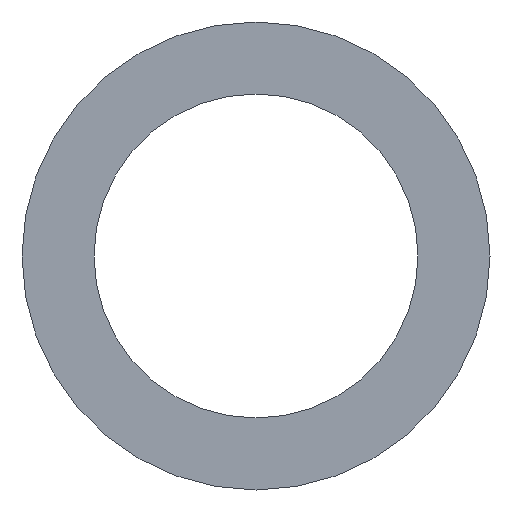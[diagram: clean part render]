
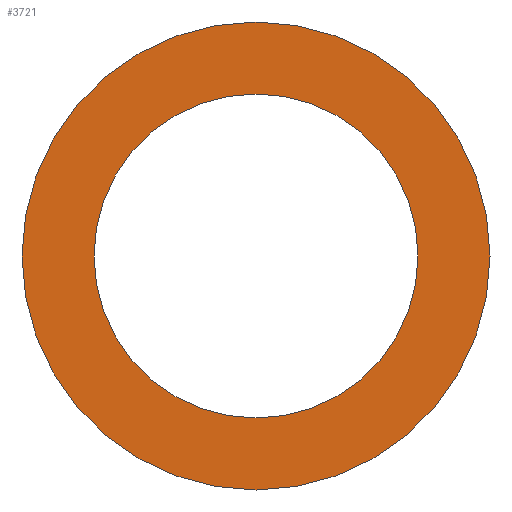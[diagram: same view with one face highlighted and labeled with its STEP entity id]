
A CAD part, front view. The second image highlights one B-rep face of the part: STEP entity #3721.
In plain terms, the highlighted planar face has unit normal (0, -1, 0).
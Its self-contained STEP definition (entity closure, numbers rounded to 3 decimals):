
#135 = EDGE_CURVE ( 'NONE', #2736, #3829, #3012, .T. ) ;
#169 = DIRECTION ( 'NONE',  ( 0., -1., 0. ) ) ;
#390 = VERTEX_POINT ( 'NONE', #3172 ) ;
#537 = PLANE ( 'NONE',  #3293 ) ;
#542 = CARTESIAN_POINT ( 'NONE',  ( 0., -25., -65. ) ) ;
#634 = DIRECTION ( 'NONE',  ( 0., 0., -1. ) ) ;
#720 = EDGE_LOOP ( 'NONE', ( #2121, #966 ) ) ;
#843 = DIRECTION ( 'NONE',  ( 0., 0., -1. ) ) ;
#852 = CARTESIAN_POINT ( 'NONE',  ( 0., -25., 45. ) ) ;
#928 = FACE_OUTER_BOUND ( 'NONE', #1515, .T. ) ;
#966 = ORIENTED_EDGE ( 'NONE', *, *, #2666, .F. ) ;
#1043 = VERTEX_POINT ( 'NONE', #3944 ) ;
#1129 = AXIS2_PLACEMENT_3D ( 'NONE', #2912, #3187, #634 ) ;
#1133 = DIRECTION ( 'NONE',  ( 0., -1., 0. ) ) ;
#1161 = DIRECTION ( 'NONE',  ( 0., 0., -1. ) ) ;
#1430 = CARTESIAN_POINT ( 'NONE',  ( 0., -25., 0. ) ) ;
#1457 = DIRECTION ( 'NONE',  ( 0., 1., 0. ) ) ;
#1515 = EDGE_LOOP ( 'NONE', ( #3468, #2723 ) ) ;
#1578 = CARTESIAN_POINT ( 'NONE',  ( 0., -25., 65. ) ) ;
#2012 = AXIS2_PLACEMENT_3D ( 'NONE', #4083, #3457, #4070 ) ;
#2024 = FACE_BOUND ( 'NONE', #720, .T. ) ;
#2109 = CARTESIAN_POINT ( 'NONE',  ( 0., -25., 0. ) ) ;
#2121 = ORIENTED_EDGE ( 'NONE', *, *, #3527, .F. ) ;
#2135 = CIRCLE ( 'NONE', #2012, 45. ) ;
#2221 = CIRCLE ( 'NONE', #2921, 65. ) ;
#2389 = AXIS2_PLACEMENT_3D ( 'NONE', #2109, #169, #1161 ) ;
#2666 = EDGE_CURVE ( 'NONE', #390, #1043, #2135, .T. ) ;
#2723 = ORIENTED_EDGE ( 'NONE', *, *, #3740, .T. ) ;
#2736 = VERTEX_POINT ( 'NONE', #542 ) ;
#2912 = CARTESIAN_POINT ( 'NONE',  ( 0., -25., 0. ) ) ;
#2921 = AXIS2_PLACEMENT_3D ( 'NONE', #1430, #1133, #843 ) ;
#3012 = CIRCLE ( 'NONE', #2389, 65. ) ;
#3172 = CARTESIAN_POINT ( 'NONE',  ( 0., -25., 45. ) ) ;
#3187 = DIRECTION ( 'NONE',  ( 0., -1., 0. ) ) ;
#3293 = AXIS2_PLACEMENT_3D ( 'NONE', #852, #1457, #3399 ) ;
#3399 = DIRECTION ( 'NONE',  ( 0., 0., 1. ) ) ;
#3457 = DIRECTION ( 'NONE',  ( 0., -1., 0. ) ) ;
#3468 = ORIENTED_EDGE ( 'NONE', *, *, #135, .T. ) ;
#3527 = EDGE_CURVE ( 'NONE', #1043, #390, #4032, .T. ) ;
#3721 = ADVANCED_FACE ( 'NONE', ( #2024, #928 ), #537, .F. ) ;
#3740 = EDGE_CURVE ( 'NONE', #3829, #2736, #2221, .T. ) ;
#3829 = VERTEX_POINT ( 'NONE', #1578 ) ;
#3944 = CARTESIAN_POINT ( 'NONE',  ( 0., -25., -45. ) ) ;
#4032 = CIRCLE ( 'NONE', #1129, 45. ) ;
#4070 = DIRECTION ( 'NONE',  ( 0., 0., -1. ) ) ;
#4083 = CARTESIAN_POINT ( 'NONE',  ( 0., -25., 0. ) ) ;
